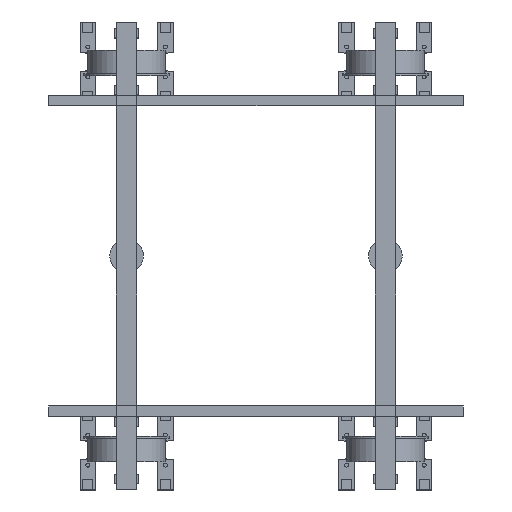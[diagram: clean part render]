
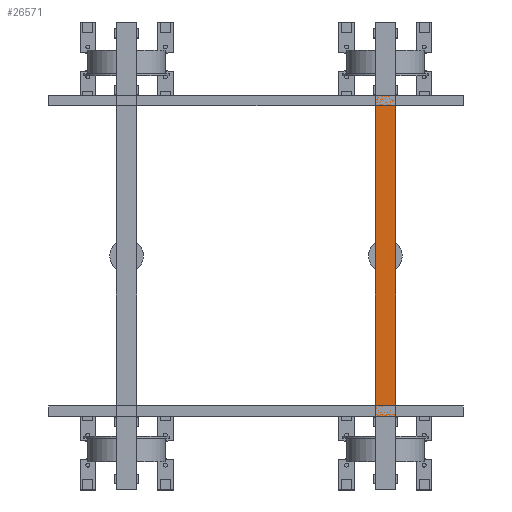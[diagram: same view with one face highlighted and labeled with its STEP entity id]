
A CAD part, top view. The second image highlights one B-rep face of the part: STEP entity #26571.
In plain terms, the highlighted planar face has unit normal (0, 0, 1).
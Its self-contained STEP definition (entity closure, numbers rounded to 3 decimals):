
#26257 = VERTEX_POINT('',#26258);
#26258 = CARTESIAN_POINT('',(460.,-620.,445.));
#26265 = PLANE('',#26266);
#26266 = AXIS2_PLACEMENT_3D('',#26267,#26268,#26269);
#26267 = CARTESIAN_POINT('',(460.,-620.,405.));
#26268 = DIRECTION('',(1.,0.,0.));
#26269 = DIRECTION('',(0.,0.,1.));
#26277 = PLANE('',#26278);
#26278 = AXIS2_PLACEMENT_3D('',#26279,#26280,#26281);
#26279 = CARTESIAN_POINT('',(460.,-620.,405.));
#26280 = DIRECTION('',(0.,1.,0.));
#26281 = DIRECTION('',(0.,0.,1.));
#26318 = VERTEX_POINT('',#26319);
#26319 = CARTESIAN_POINT('',(460.,620.,445.));
#26333 = PLANE('',#26334);
#26334 = AXIS2_PLACEMENT_3D('',#26335,#26336,#26337);
#26335 = CARTESIAN_POINT('',(460.,620.,405.));
#26336 = DIRECTION('',(0.,1.,0.));
#26337 = DIRECTION('',(0.,0.,1.));
#26345 = EDGE_CURVE('',#26257,#26318,#26346,.T.);
#26346 = SURFACE_CURVE('',#26347,(#26351,#26358),.PCURVE_S1.);
#26347 = LINE('',#26348,#26349);
#26348 = CARTESIAN_POINT('',(460.,-620.,445.));
#26349 = VECTOR('',#26350,1.);
#26350 = DIRECTION('',(0.,1.,0.));
#26351 = PCURVE('',#26265,#26352);
#26352 = DEFINITIONAL_REPRESENTATION('',(#26353),#26357);
#26353 = LINE('',#26354,#26355);
#26354 = CARTESIAN_POINT('',(40.,0.));
#26355 = VECTOR('',#26356,1.);
#26356 = DIRECTION('',(0.,-1.));
#26357 = ( GEOMETRIC_REPRESENTATION_CONTEXT(2) 
PARAMETRIC_REPRESENTATION_CONTEXT() REPRESENTATION_CONTEXT('2D SPACE',''
  ) );
#26358 = PCURVE('',#26359,#26364);
#26359 = PLANE('',#26360);
#26360 = AXIS2_PLACEMENT_3D('',#26361,#26362,#26363);
#26361 = CARTESIAN_POINT('',(460.,-620.,445.));
#26362 = DIRECTION('',(0.,0.,1.));
#26363 = DIRECTION('',(1.,0.,0.));
#26364 = DEFINITIONAL_REPRESENTATION('',(#26365),#26369);
#26365 = LINE('',#26366,#26367);
#26366 = CARTESIAN_POINT('',(0.,0.));
#26367 = VECTOR('',#26368,1.);
#26368 = DIRECTION('',(0.,1.));
#26369 = ( GEOMETRIC_REPRESENTATION_CONTEXT(2) 
PARAMETRIC_REPRESENTATION_CONTEXT() REPRESENTATION_CONTEXT('2D SPACE',''
  ) );
#26377 = VERTEX_POINT('',#26378);
#26378 = CARTESIAN_POINT('',(540.,-620.,445.));
#26385 = PLANE('',#26386);
#26386 = AXIS2_PLACEMENT_3D('',#26387,#26388,#26389);
#26387 = CARTESIAN_POINT('',(540.,-620.,405.));
#26388 = DIRECTION('',(1.,0.,0.));
#26389 = DIRECTION('',(0.,0.,1.));
#26428 = VERTEX_POINT('',#26429);
#26429 = CARTESIAN_POINT('',(540.,620.,445.));
#26450 = EDGE_CURVE('',#26377,#26428,#26451,.T.);
#26451 = SURFACE_CURVE('',#26452,(#26456,#26463),.PCURVE_S1.);
#26452 = LINE('',#26453,#26454);
#26453 = CARTESIAN_POINT('',(540.,-620.,445.));
#26454 = VECTOR('',#26455,1.);
#26455 = DIRECTION('',(0.,1.,0.));
#26456 = PCURVE('',#26385,#26457);
#26457 = DEFINITIONAL_REPRESENTATION('',(#26458),#26462);
#26458 = LINE('',#26459,#26460);
#26459 = CARTESIAN_POINT('',(40.,0.));
#26460 = VECTOR('',#26461,1.);
#26461 = DIRECTION('',(0.,-1.));
#26462 = ( GEOMETRIC_REPRESENTATION_CONTEXT(2) 
PARAMETRIC_REPRESENTATION_CONTEXT() REPRESENTATION_CONTEXT('2D SPACE',''
  ) );
#26463 = PCURVE('',#26359,#26464);
#26464 = DEFINITIONAL_REPRESENTATION('',(#26465),#26469);
#26465 = LINE('',#26466,#26467);
#26466 = CARTESIAN_POINT('',(80.,0.));
#26467 = VECTOR('',#26468,1.);
#26468 = DIRECTION('',(0.,1.));
#26469 = ( GEOMETRIC_REPRESENTATION_CONTEXT(2) 
PARAMETRIC_REPRESENTATION_CONTEXT() REPRESENTATION_CONTEXT('2D SPACE',''
  ) );
#26496 = EDGE_CURVE('',#26257,#26377,#26497,.T.);
#26497 = SURFACE_CURVE('',#26498,(#26502,#26509),.PCURVE_S1.);
#26498 = LINE('',#26499,#26500);
#26499 = CARTESIAN_POINT('',(460.,-620.,445.));
#26500 = VECTOR('',#26501,1.);
#26501 = DIRECTION('',(1.,0.,0.));
#26502 = PCURVE('',#26277,#26503);
#26503 = DEFINITIONAL_REPRESENTATION('',(#26504),#26508);
#26504 = LINE('',#26505,#26506);
#26505 = CARTESIAN_POINT('',(40.,0.));
#26506 = VECTOR('',#26507,1.);
#26507 = DIRECTION('',(0.,1.));
#26508 = ( GEOMETRIC_REPRESENTATION_CONTEXT(2) 
PARAMETRIC_REPRESENTATION_CONTEXT() REPRESENTATION_CONTEXT('2D SPACE',''
  ) );
#26509 = PCURVE('',#26359,#26510);
#26510 = DEFINITIONAL_REPRESENTATION('',(#26511),#26515);
#26511 = LINE('',#26512,#26513);
#26512 = CARTESIAN_POINT('',(0.,0.));
#26513 = VECTOR('',#26514,1.);
#26514 = DIRECTION('',(1.,0.));
#26515 = ( GEOMETRIC_REPRESENTATION_CONTEXT(2) 
PARAMETRIC_REPRESENTATION_CONTEXT() REPRESENTATION_CONTEXT('2D SPACE',''
  ) );
#26543 = EDGE_CURVE('',#26318,#26428,#26544,.T.);
#26544 = SURFACE_CURVE('',#26545,(#26549,#26556),.PCURVE_S1.);
#26545 = LINE('',#26546,#26547);
#26546 = CARTESIAN_POINT('',(460.,620.,445.));
#26547 = VECTOR('',#26548,1.);
#26548 = DIRECTION('',(1.,0.,0.));
#26549 = PCURVE('',#26333,#26550);
#26550 = DEFINITIONAL_REPRESENTATION('',(#26551),#26555);
#26551 = LINE('',#26552,#26553);
#26552 = CARTESIAN_POINT('',(40.,0.));
#26553 = VECTOR('',#26554,1.);
#26554 = DIRECTION('',(0.,1.));
#26555 = ( GEOMETRIC_REPRESENTATION_CONTEXT(2) 
PARAMETRIC_REPRESENTATION_CONTEXT() REPRESENTATION_CONTEXT('2D SPACE',''
  ) );
#26556 = PCURVE('',#26359,#26557);
#26557 = DEFINITIONAL_REPRESENTATION('',(#26558),#26562);
#26558 = LINE('',#26559,#26560);
#26559 = CARTESIAN_POINT('',(0.,1240.));
#26560 = VECTOR('',#26561,1.);
#26561 = DIRECTION('',(1.,0.));
#26562 = ( GEOMETRIC_REPRESENTATION_CONTEXT(2) 
PARAMETRIC_REPRESENTATION_CONTEXT() REPRESENTATION_CONTEXT('2D SPACE',''
  ) );
#26571 = ADVANCED_FACE('',(#26572),#26359,.T.);
#26572 = FACE_BOUND('',#26573,.T.);
#26573 = EDGE_LOOP('',(#26574,#26575,#26576,#26577));
#26574 = ORIENTED_EDGE('',*,*,#26345,.F.);
#26575 = ORIENTED_EDGE('',*,*,#26496,.T.);
#26576 = ORIENTED_EDGE('',*,*,#26450,.T.);
#26577 = ORIENTED_EDGE('',*,*,#26543,.F.);
